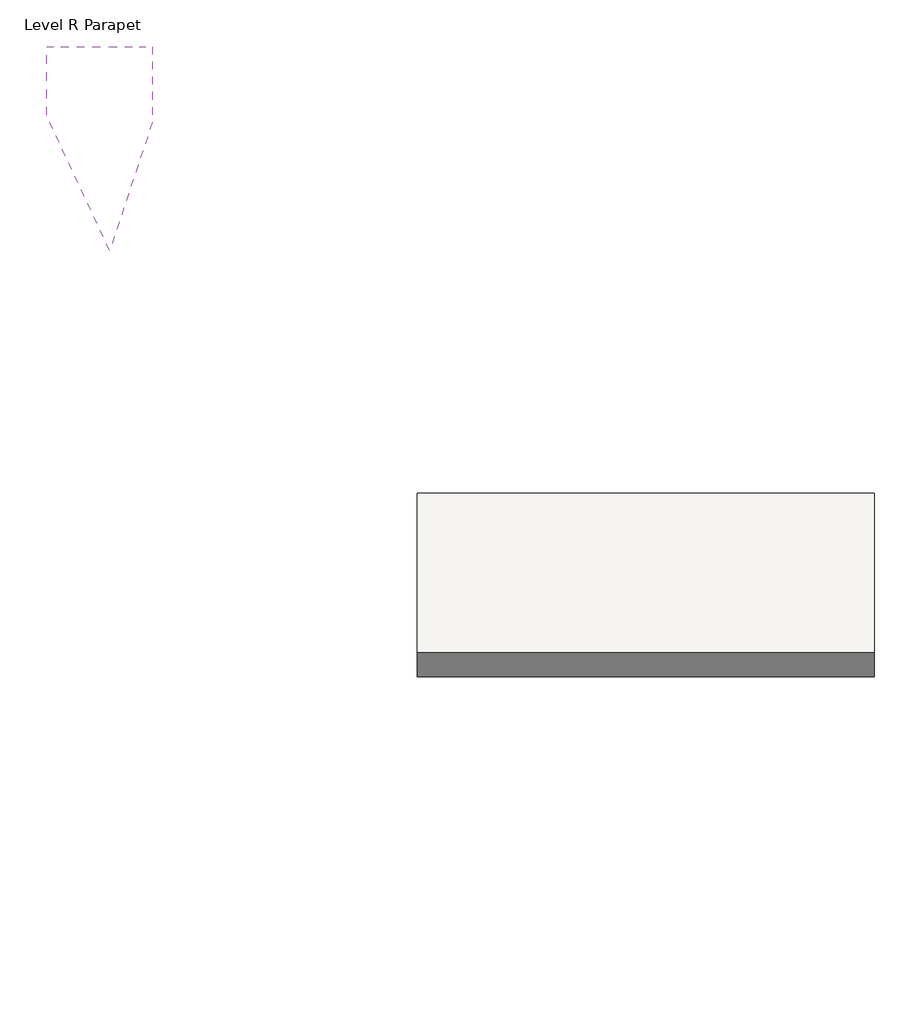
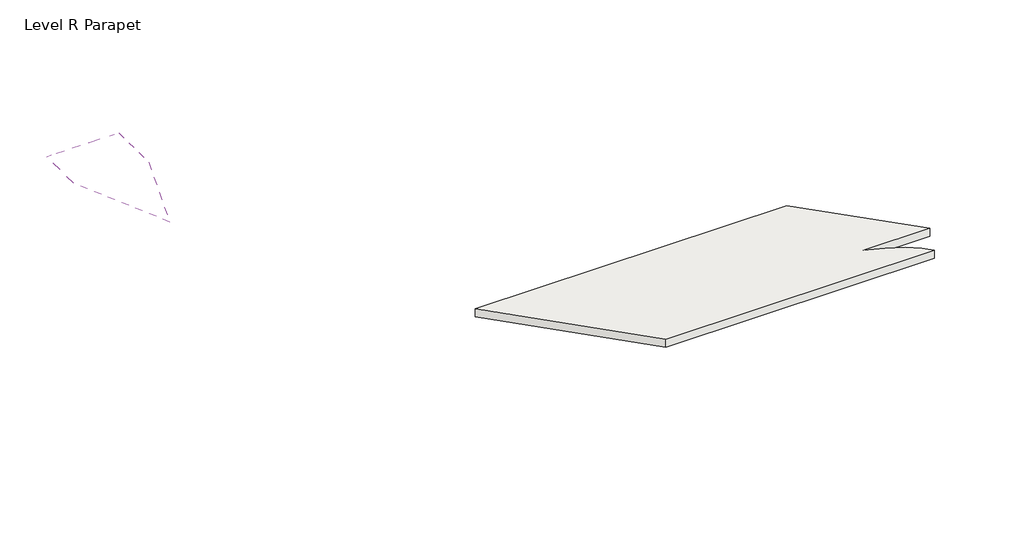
# One storey: 2 roofs.
"""IFC4 building model written with IfcOpenShell, lengths in millimetres."""

from ifc_helpers import new_model, si_unit, frame, origin, place, context, project, spatial, ellipse_curve, faceted_brep, element, save
from ifc_brep_helpers import plane_surface, cylinder_surface, advanced_brep

model = new_model("IFC4")

# Units and contexts
model_context = context("Model", 3, world=origin())
ifc_project = project(units=[si_unit("LENGTHUNIT", "METRE", prefix="MILLI")], contexts=[model_context])

# Site, building, storey
site = spatial("IfcSite", under=ifc_project)
building = spatial("IfcBuilding", under=site)
storey = spatial("IfcBuildingStorey", under=building, Name="Level R Parapet", Elevation=7700.0)

# Roofs
placement = place(None, origin())
element("IfcRoof", 1, ObjectType="Generic - 400mm", at=placement, inside=storey, context=model_context, shape_type="AdvancedBrep", body=[
    advanced_brep(
    [(14309.1735776, 9501.3132233, 14852.8147449), (14309.1735776, 26875.940445, 6000.0), (14309.1735776, 26875.940445, 5551.0695049), (14309.1735776, 9501.3132233, 14403.8842499), (30709.1735776, 26875.940445, 5551.0695049), (30709.1735776, 26875.940445, 6000.0), (30709.1735776, 13845.7719705, 12639.2024489), (30709.1735776, 13845.7719705, 12190.2719539), (28447.0184171, 9501.3132233, 14852.8147449), (27203.0397407, 13845.7719705, 12639.2024489), (27203.0397407, 13845.7719705, 12190.2719539), (28447.0184171, 9501.3132233, 14403.8842499)],
    [
        (0, 1),
        (1, 2),
        (2, 3),
        (3, 0),
        (4, 5),
        (5, 6),
        (6, 7),
        (7, 4),
        (0, 8),
        (8, 9, ellipse_curve(frame((22149.067056, 10048.3054534, 14574.108283), z_axis=(0.0, 0.45399049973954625, 0.8910065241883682), x_axis=(0.0, 0.8910065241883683, -0.4539904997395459)), 7094.9654773, 6321.6605292)),
        (9, 6),
        (5, 1),
        (4, 2),
        (7, 10),
        (10, 11, ellipse_curve(frame((22149.067056, 10048.3054534, 14125.177788), z_axis=(0.0, -0.45399049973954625, -0.8910065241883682), x_axis=(0.0, 0.8910065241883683, -0.4539904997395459)), 7094.9654773, 6321.6605292)),
        (11, 3),
        (11, 8),
        (9, 10),
    ],
    [
        plane_surface(frame((14309.1735776, 26875.940445, 6000.0), z_axis=(-1.0000000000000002, 0.0, 0.0), x_axis=(0.0, 0.8910065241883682, -0.45399049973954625))),
        plane_surface(frame((30709.1735776, 26875.940445, 6000.0), z_axis=(1.0000000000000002, 0.0, 0.0), x_axis=(0.0, -0.8910065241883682, 0.45399049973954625))),
        plane_surface(frame((14309.1735776, 9501.3132233, 14852.8147449), z_axis=(0.0, 0.45399049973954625, 0.8910065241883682), x_axis=(1.0, 0.0, 0.0))),
        plane_surface(frame((14309.1735776, 26875.940445, 6000.0), z_axis=(0.0, 1.0, 0.0), x_axis=(1.0, 0.0, 0.0))),
        plane_surface(frame((14309.1735776, 26875.940445, 5551.0695049), z_axis=(0.0, -0.45399049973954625, -0.8910065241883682), x_axis=(1.0, 0.0, 0.0))),
        plane_surface(frame((14309.1735776, 9501.3132233, 14403.8842499), z_axis=(0.0, -1.0, 0.0), x_axis=(1.0, 0.0, 0.0))),
        plane_surface(frame((30916.0016487, 13845.7719705, 15157.6147449), z_axis=(0.0, -1.0, 0.0), x_axis=(0.0, 0.0, -1.0))),
        cylinder_surface(frame((22149.067056, 10048.3054534, 5246.2695049), z_axis=(0.0, 0.0, -1.0), x_axis=(1.0, 0.0, 0.0)), 6321.6605292),
    ],
    [
        (0, [[1, 2, 3, 4]]),
        (1, [[5, 6, 7, 8]]),
        (2, [[-1, 9, 10, 11, -6, 12]]),
        (3, [[-2, -12, -5, 13]]),
        (4, [[-3, -13, -8, 14, 15, 16]]),
        (5, [[-4, -16, 17, -9]]),
        (6, [[18, -14, -7, -11]]),
        (7, [[-18, -10, -17, -15]]),
    ],
),
])
element("IfcRoof", 2, ObjectType="Generic - 400mm", at=placement, inside=storey, context=model_context, shape_type="Brep", body=[
    faceted_brep([(1000.036713, 42919.6648031, 9403.8120916), (3265.5901208, 42919.6648031, 12201.5375529), (4798.1822797, 42919.6648031, 9547.0100663), (4336.3020644, 42919.6648031, 9547.0100663), (3210.181765, 42919.6648031, 11497.5076403), (1514.7405394, 42919.6648031, 9403.8120916), (1000.036713, 40449.4481117, 9403.8120916), (3265.5901208, 35603.6454672, 12201.5375529), (4798.1822797, 40201.421944, 9547.0100663), (3210.181765, 36823.0610459, 11497.5076403), (4336.3020644, 40201.421944, 9547.0100663), (1514.7405394, 40449.4481117, 9403.8120916)], [[[0, 1, 2, 3, 4, 5]], [[1, 0, 6, 7]], [[2, 1, 7, 8]], [[9, 4, 3, 10]], [[4, 9, 11, 5]], [[3, 2, 8, 10]], [[0, 5, 11, 6]], [[7, 6, 11, 9, 10, 8]]]),
])

save(model, "model.ifc")
